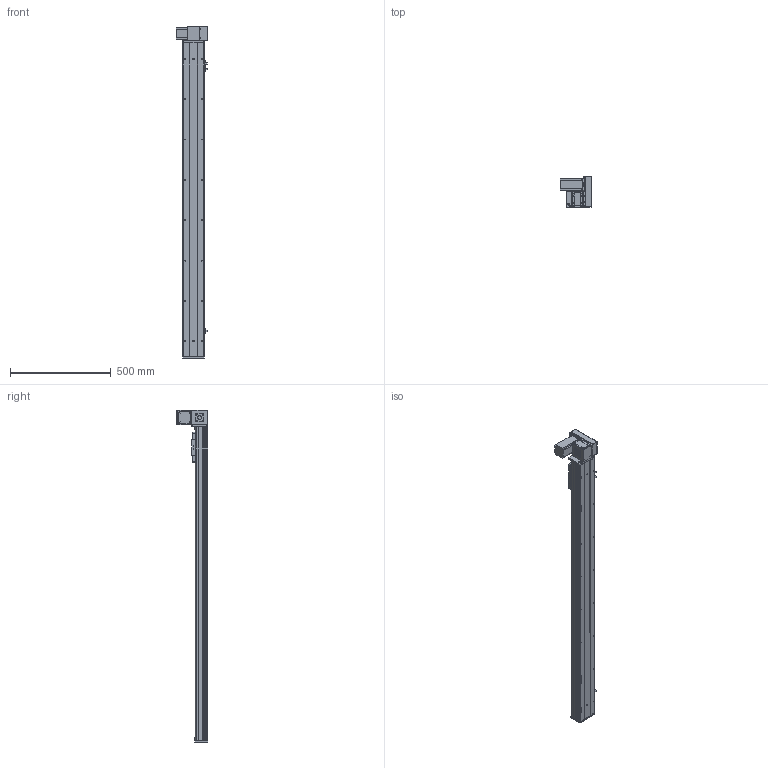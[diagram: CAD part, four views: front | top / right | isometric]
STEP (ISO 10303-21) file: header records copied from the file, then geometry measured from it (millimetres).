
FILE_DESCRIPTION (( 'STEP AP203' ), '1' );
FILE_NAME ('Y10CB-D90-S1300-UR-P400W.STEP', '2020-02-16T03:36:54', ( '微软用户' ), ( '微软中国' ), 'SwSTEP 2.0', 'SolidWorks 2017', '' );
FILE_SCHEMA (( 'CONFIG_CONTROL_DESIGN' ));
Length unit declared in the file: millimetre
Products named in the file (18): 10CB-耜裔; 0B-萇儂楊擘啣; Y135C-陔俋离換覜結え-; san松下电机400不带刹车----; Y100-135俋离換覜ん--; 0B-源倛裔啣; Y10B--々湍喘謫眊--666; 0B-埴倛裔啣; Y10B-耜蚾蟀諉啣----; 10CB-詩湍-; 00B-俋欶BM--; Y10CB- 掛极耜裔啣-毀---; 0CB-雄赽釱---; Y10CB-D90-S1300-UR-P400W; Y10C---詩湍揤啣; 0Cb-俋欶---; 10CB9-掛极; Y10B-々湍喘謫眊楊擘啣--
Assembly tree (21 placements, depth 2):
  Y10CB-D90-S1300-UR-P400W
    0CB-雄赽釱---
    0Cb-俋欶---
    Y10B-々湍喘謫眊楊擘啣--
    0B-萇儂楊擘啣
    san松下电机400不带刹车----
    0B-源倛裔啣
    0B-埴倛裔啣
    10CB-詩湍-
    Y10CB- 掛极耜裔啣-毀---  x2
    Y10C---詩湍揤啣  x2
    10CB9-掛极
    10CB-耜裔
    Y135C-陔俋离換覜結え-
    Y100-135俋离換覜ん--  x3
    Y10B--々湍喘謫眊--666
    Y10B-耜蚾蟀諉啣----
    00B-俋欶BM--
Bounding box: 157 x 155.5 x 1646 mm (x, y, z)
Volume: 3659559.5 mm3; surface area: 1675557.7 mm2
Topology: 21 solids, 21 shells, 1002 faces, 2683 edges, 1754 vertices
Faces by surface type: cylinder 499, plane 479, cone 24
Entity records: 31412 total; most frequent: CARTESIAN_POINT 5617, DIRECTION 5066, ORIENTED_EDGE 4836, EDGE_CURVE 2418, AXIS2_PLACEMENT_3D 1813, VERTEX_POINT 1580, LINE 1440, VECTOR 1440
